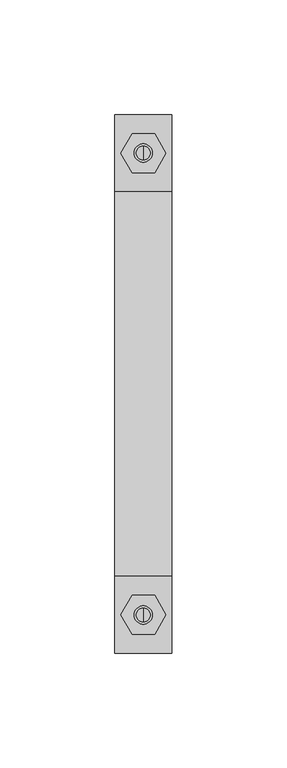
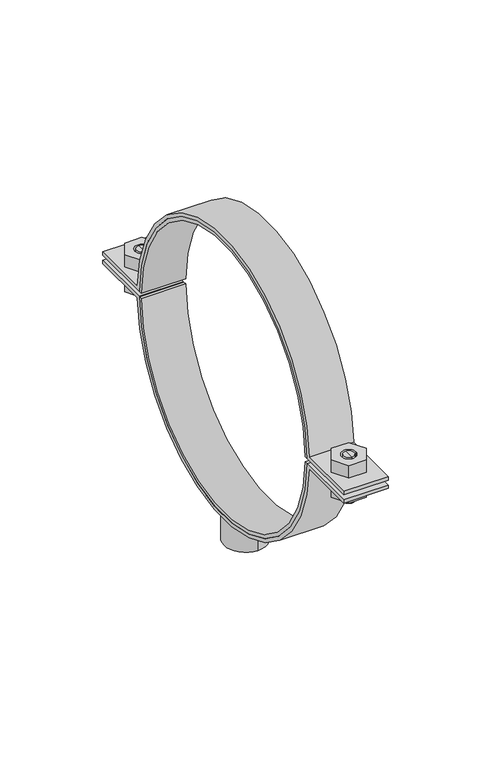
"""IFC4 building model written with IfcOpenShell, lengths in millimetres: valve geometry, Superfix DG2 Clamp Extra + : Superfix DG2 Clamp Extra +."""

from ifc_helpers import new_model, si_unit, point, frame, frame_2d, origin, origin_2d, place, context, project, spatial, polyline, circle_curve, trimmed, segment, composite_curve, outline, extrude, source, transform, mapped, element, save
from ifc_brep_helpers import plane_surface, cylinder_surface, advanced_brep


def valve_fd3ecfd8(model_context):
    return source(origin(), model_context, "Body", "SolidModel", [
        advanced_brep(
        [(0.0, 103.75, 333.9), (0.0, 97.75, 333.9), (0.0, 97.75, 348.5), (0.0, 103.75, 348.5), (0.0, 100.75, 333.9)],
        [
            (0, 1, circle_curve(frame((0.0, 100.75, 333.9), z_axis=(0.0, 0.0, 1.0), x_axis=(0.0, 1.0, 0.0)), 3.0)),
            (1, 2),
            (2, 3, circle_curve(frame((0.0, 100.75, 348.5), z_axis=(0.0, 0.0, -1.0), x_axis=(0.0, 1.0, 0.0)), 3.0)),
            (3, 0),
            (1, 0, circle_curve(frame((0.0, 100.75, 333.9), z_axis=(0.0, 0.0, 1.0), x_axis=(0.0, 1.0, 0.0)), 3.0)),
            (3, 2, circle_curve(frame((0.0, 100.75, 348.5), z_axis=(0.0, 0.0, -1.0), x_axis=(0.0, 1.0, 0.0)), 3.0)),
            (0, 4),
            (4, 1),
        ],
        [
            cylinder_surface(frame((0.0, 100.75, 348.2806094), z_axis=(0.0, 0.0, 1.0), x_axis=(0.0, 1.0, 0.0)), 3.0),
            plane_surface(frame((0.0, 100.75, 333.9), z_axis=(0.0, 0.0, -1.0), x_axis=(0.0, 1.0, 0.0))),
            plane_surface(frame((13.75, -117.5, 348.5), z_axis=(0.0, 0.0, 1.0), x_axis=(-1.0, 0.0, 0.0))),
        ],
        [
            (0, [[1, 2, 3, 4]]),
            (0, [[5, -4, 6, -2]]),
            (1, [[-1, 7, 8]]),
            (1, [[-5, -8, -7]]),
            (2, [[-3, -6]]),
        ],
    ),
        advanced_brep(
        [(0.0, 97.75, 361.1), (0.0, 103.75, 361.1), (0.0, 103.75, 351.5), (0.0, 97.75, 351.5), (0.0, 100.75, 361.1)],
        [
            (0, 1, circle_curve(frame((0.0, 100.75, 361.1), z_axis=(0.0, 0.0, -1.0), x_axis=(0.0, 1.0, 0.0)), 3.0)),
            (1, 2),
            (2, 3, circle_curve(frame((0.0, 100.75, 351.5), z_axis=(0.0, 0.0, 1.0), x_axis=(0.0, 1.0, 0.0)), 3.0)),
            (3, 0),
            (1, 0, circle_curve(frame((0.0, 100.75, 361.1), z_axis=(0.0, 0.0, -1.0), x_axis=(0.0, 1.0, 0.0)), 3.0)),
            (3, 2, circle_curve(frame((0.0, 100.75, 351.5), z_axis=(0.0, 0.0, 1.0), x_axis=(0.0, 1.0, 0.0)), 3.0)),
            (0, 4),
            (4, 1),
        ],
        [
            cylinder_surface(frame((0.0, 100.75, 348.2806094), z_axis=(0.0, 0.0, 1.0), x_axis=(0.0, 1.0, 0.0)), 3.0),
            plane_surface(frame((0.0, 100.75, 361.1), z_axis=(0.0, 0.0, 1.0), x_axis=(0.0, 1.0, 0.0))),
            plane_surface(frame((13.75, 117.5, 351.5), z_axis=(0.0, 0.0, -1.0), x_axis=(-1.0, 0.0, 0.0))),
        ],
        [
            (0, [[1, 2, 3, 4]]),
            (0, [[5, -4, 6, -2]]),
            (1, [[-1, 7, 8]]),
            (1, [[-5, -8, -7]]),
            (2, [[-3, -6]]),
        ],
    ),
        advanced_brep(
        [(0.0, -103.75, 361.1), (0.0, -97.75, 361.1), (0.0, -97.75, 351.5), (0.0, -103.75, 351.5), (0.0, -100.75, 361.1)],
        [
            (0, 1, circle_curve(frame((0.0, -100.75, 361.1), z_axis=(0.0, 0.0, -1.0), x_axis=(0.0, -1.0, 0.0)), 3.0)),
            (1, 2),
            (2, 3, circle_curve(frame((0.0, -100.75, 351.5), z_axis=(0.0, 0.0, 1.0), x_axis=(0.0, -1.0, 0.0)), 3.0)),
            (3, 0),
            (1, 0, circle_curve(frame((0.0, -100.75, 361.1), z_axis=(0.0, 0.0, -1.0), x_axis=(0.0, -1.0, 0.0)), 3.0)),
            (3, 2, circle_curve(frame((0.0, -100.75, 351.5), z_axis=(0.0, 0.0, 1.0), x_axis=(0.0, -1.0, 0.0)), 3.0)),
            (0, 4),
            (4, 1),
        ],
        [
            cylinder_surface(frame((0.0, -100.75, 348.2806094), z_axis=(0.0, 0.0, -1.0), x_axis=(0.0, -1.0, 0.0)), 3.0),
            plane_surface(frame((0.0, -100.75, 361.1), z_axis=(0.0, 0.0, 1.0), x_axis=(0.0, -1.0, 0.0))),
            plane_surface(frame((13.75, 117.5, 351.5), z_axis=(0.0, 0.0, -1.0), x_axis=(-1.0, 0.0, 0.0))),
        ],
        [
            (0, [[1, 2, 3, 4]]),
            (0, [[5, -4, 6, -2]]),
            (1, [[-1, 7, 8]]),
            (1, [[-5, -8, -7]]),
            (2, [[-3, -6]]),
        ],
    ),
        advanced_brep(
        [(0.0, -97.75, 333.9), (0.0, -103.75, 333.9), (0.0, -103.75, 348.5), (0.0, -97.75, 348.5), (0.0, -100.75, 333.9)],
        [
            (0, 1, circle_curve(frame((0.0, -100.75, 333.9), z_axis=(0.0, 0.0, 1.0), x_axis=(0.0, -1.0, 0.0)), 3.0)),
            (1, 2),
            (2, 3, circle_curve(frame((0.0, -100.75, 348.5), z_axis=(0.0, 0.0, -1.0), x_axis=(0.0, -1.0, 0.0)), 3.0)),
            (3, 0),
            (1, 0, circle_curve(frame((0.0, -100.75, 333.9), z_axis=(0.0, 0.0, 1.0), x_axis=(0.0, -1.0, 0.0)), 3.0)),
            (3, 2, circle_curve(frame((0.0, -100.75, 348.5), z_axis=(0.0, 0.0, -1.0), x_axis=(0.0, -1.0, 0.0)), 3.0)),
            (0, 4),
            (4, 1),
        ],
        [
            cylinder_surface(frame((0.0, -100.75, 348.2806094), z_axis=(0.0, 0.0, -1.0), x_axis=(0.0, -1.0, 0.0)), 3.0),
            plane_surface(frame((0.0, -100.75, 333.9), z_axis=(0.0, 0.0, -1.0), x_axis=(0.0, -1.0, 0.0))),
            plane_surface(frame((13.75, -117.5, 348.5), z_axis=(0.0, 0.0, 1.0), x_axis=(-1.0, 0.0, 0.0))),
        ],
        [
            (0, [[1, 2, 3, 4]]),
            (0, [[5, -4, 6, -2]]),
            (1, [[-1, 7, 8]]),
            (1, [[-5, -8, -7]]),
            (2, [[-3, -6]]),
        ],
    ),
        extrude(outline(composite_curve([segment(trimmed(circle_curve(frame_2d((0.0, 350.0)), 82.0), [point((-81.9862793, 348.5))], [point((81.9862793, 348.5))], True, "CARTESIAN"), True, "CONTINUOUS"), segment(polyline([(81.9862793, 348.5), (117.5, 348.5), (117.5, 346.5), (83.9270517, 346.5)]), True, "CONTINUOUS"), segment(trimmed(circle_curve(frame_2d((0.0, 350.0)), 84.0), [point((83.9270517, 346.5))], [point((-83.9270517, 346.5))], False, "CARTESIAN"), True, "CONTINUOUS"), segment(polyline([(-83.9270517, 346.5), (-117.5, 346.5), (-117.5, 348.5), (-81.9862793, 348.5)]), True, "CONTINUOUS")], self_intersect=False)), frame((-12.5, 0.0, 0.0), z_axis=(1.0, 0.0, 0.0), x_axis=(0.0, 1.0, 0.0)), (0.0, 0.0, 1.0), 25.0),
        extrude(outline(composite_curve([segment(trimmed(circle_curve(frame_2d((0.0, 350.0)), 82.0), [point((81.9862793, 351.5))], [point((-81.9862793, 351.5))], True, "CARTESIAN"), True, "CONTINUOUS"), segment(polyline([(-81.9862793, 351.5), (-117.5, 351.5), (-117.5, 353.5), (-83.9270517, 353.5)]), True, "CONTINUOUS"), segment(trimmed(circle_curve(frame_2d((0.0, 350.0)), 84.0), [point((-83.9270517, 353.5))], [point((83.9270517, 353.5))], False, "CARTESIAN"), True, "CONTINUOUS"), segment(polyline([(83.9270517, 353.5), (117.5, 353.5), (117.5, 351.5), (81.9862793, 351.5)]), True, "CONTINUOUS")], self_intersect=False)), frame((-12.5, 0.0, 0.0), z_axis=(1.0, 0.0, 0.0), x_axis=(0.0, 1.0, 0.0)), (0.0, 0.0, 1.0), 25.0),
        extrude(outline(polyline([(9.8149546, -100.75), (4.9074773, -109.25), (-4.9074773, -109.25), (-9.8149546, -100.75), (-4.9074773, -92.25), (4.9074773, -92.25), (9.8149546, -100.75)]), holes=[composite_curve([segment(trimmed(circle_curve(frame_2d((0.0, -100.75)), 4.0), [point((4.0, -100.75))], [point((-4.0, -100.75))], True, "CARTESIAN"), True, "CONTINUOUS"), segment(trimmed(circle_curve(frame_2d((0.0, -100.75)), 4.0), [point((-4.0, -100.75))], [point((4.0, -100.75))], True, "CARTESIAN"), True, "CONTINUOUS")], self_intersect=False)]), frame((0.0, 0.0, 353.5), z_axis=(0.0, 0.0, 1.0), x_axis=(1.0, 0.0, 0.0)), (0.0, 0.0, 1.0), 7.6),
        extrude(outline(polyline([(9.8149546, 100.75), (4.9074773, 92.25), (-4.9074773, 92.25), (-9.8149546, 100.75), (-4.9074773, 109.25), (4.9074773, 109.25), (9.8149546, 100.75)]), holes=[composite_curve([segment(trimmed(circle_curve(frame_2d((0.0, 100.75)), 4.0), [point((4.0, 100.75))], [point((-4.0, 100.75))], True, "CARTESIAN"), True, "CONTINUOUS"), segment(trimmed(circle_curve(frame_2d((0.0, 100.75)), 4.0), [point((-4.0, 100.75))], [point((4.0, 100.75))], True, "CARTESIAN"), True, "CONTINUOUS")], self_intersect=False)]), frame((0.0, 0.0, 353.5), z_axis=(0.0, 0.0, 1.0), x_axis=(1.0, 0.0, 0.0)), (0.0, 0.0, 1.0), 7.6),
        extrude(outline(polyline([(9.8149546, -100.75), (4.9074773, -109.25), (-4.9074773, -109.25), (-9.8149546, -100.75), (-4.9074773, -92.25), (4.9074773, -92.25), (9.8149546, -100.75)]), holes=[composite_curve([segment(trimmed(circle_curve(frame_2d((0.0, -100.75)), 4.0), [point((4.0, -100.75))], [point((-4.0, -100.75))], True, "CARTESIAN"), True, "CONTINUOUS"), segment(trimmed(circle_curve(frame_2d((0.0, -100.75)), 4.0), [point((-4.0, -100.75))], [point((4.0, -100.75))], True, "CARTESIAN"), True, "CONTINUOUS")], self_intersect=False)]), frame((0.0, 0.0, 338.9), z_axis=(0.0, 0.0, 1.0), x_axis=(1.0, 0.0, 0.0)), (0.0, 0.0, 1.0), 7.6),
        extrude(outline(polyline([(9.8149546, 100.75), (4.9074773, 92.25), (-4.9074773, 92.25), (-9.8149546, 100.75), (-4.9074773, 109.25), (4.9074773, 109.25), (9.8149546, 100.75)]), holes=[composite_curve([segment(trimmed(circle_curve(frame_2d((0.0, 100.75)), 4.0), [point((4.0, 100.75))], [point((-4.0, 100.75))], True, "CARTESIAN"), True, "CONTINUOUS"), segment(trimmed(circle_curve(frame_2d((0.0, 100.75)), 4.0), [point((-4.0, 100.75))], [point((4.0, 100.75))], True, "CARTESIAN"), True, "CONTINUOUS")], self_intersect=False)]), frame((0.0, 0.0, 338.9), z_axis=(0.0, 0.0, 1.0), x_axis=(1.0, 0.0, 0.0)), (0.0, 0.0, 1.0), 7.6),
        extrude(outline(composite_curve([segment(trimmed(circle_curve(origin_2d(), 12.0), [point((0.0, 12.0))], [point((0.0, -12.0))], False, "CARTESIAN"), True, "CONTINUOUS"), segment(trimmed(circle_curve(origin_2d(), 12.0), [point((0.0, -12.0))], [point((0.0, 12.0))], False, "CARTESIAN"), True, "CONTINUOUS")], self_intersect=False), holes=[composite_curve([segment(trimmed(circle_curve(origin_2d(), 8.0), [point((0.0, 8.0))], [point((0.0, -8.0))], True, "CARTESIAN"), True, "CONTINUOUS"), segment(trimmed(circle_curve(origin_2d(), 8.0), [point((0.0, -8.0))], [point((0.0, 8.0))], True, "CARTESIAN"), True, "CONTINUOUS")], self_intersect=False)]), frame((0.0, 0.0, 250.0), z_axis=(0.0, 0.0, 1.0), x_axis=(1.0, 0.0, 0.0)), (0.0, 0.0, 1.0), 18.0),
        extrude(outline(composite_curve([segment(trimmed(circle_curve(frame_2d((0.0, 350.0)), 80.0), [point((79.9859363, 351.5))], [point((-79.9859363, 351.5))], True, "CARTESIAN"), True, "CONTINUOUS"), segment(polyline([(-79.9859363, 351.5), (-81.9862793, 351.5)]), True, "CONTINUOUS"), segment(trimmed(circle_curve(frame_2d((0.0, 350.0)), 82.0), [point((-81.9862793, 351.5))], [point((81.9862793, 351.5))], False, "CARTESIAN"), True, "CONTINUOUS"), segment(polyline([(81.9862793, 351.5), (79.9859363, 351.5)]), True, "CONTINUOUS")], self_intersect=False)), frame((-12.5, 0.0, 0.0), z_axis=(1.0, 0.0, 0.0), x_axis=(0.0, 1.0, 0.0)), (0.0, 0.0, 1.0), 25.0),
        extrude(outline(composite_curve([segment(polyline([(79.9859363, 348.5), (81.9862793, 348.5)]), True, "CONTINUOUS"), segment(trimmed(circle_curve(frame_2d((0.0, 350.0)), 82.0), [point((81.9862793, 348.5))], [point((-81.9862793, 348.5))], False, "CARTESIAN"), True, "CONTINUOUS"), segment(polyline([(-81.9862793, 348.5), (-79.9859363, 348.5)]), True, "CONTINUOUS"), segment(trimmed(circle_curve(frame_2d((0.0, 350.0)), 80.0), [point((-79.9859363, 348.5))], [point((79.9859363, 348.5))], True, "CARTESIAN"), True, "CONTINUOUS")], self_intersect=False)), frame((-12.5, 0.0, 0.0), z_axis=(1.0, 0.0, 0.0), x_axis=(0.0, 1.0, 0.0)), (0.0, 0.0, 1.0), 25.0),
    ])


if __name__ == "__main__":
    model = new_model("IFC4")
    model_context = context("Model", 3, world=origin())
    ifc_project = project(units=[si_unit("LENGTHUNIT", "METRE", prefix="MILLI")], contexts=[model_context])
    site = spatial("IfcSite", under=ifc_project)
    building = spatial("IfcBuilding", under=site)
    placement = place(None, origin())
    valve_shape = valve_fd3ecfd8(model_context)
    element("IfcValve", 1, ObjectType="Superfix DG2 Clamp Extra + : Superfix DG2 Clamp Extra +", at=placement, inside=building, context=model_context, shape_type="MappedRepresentation", body=[
        mapped(valve_shape, transform((0.0, 0.0, 0.0), x_axis=(1.0, 0.0, 0.0), y_axis=(0.0, 1.0, 0.0), z_axis=(0.0, 0.0, 1.0))),
    ])
    save(model, "model.ifc")
